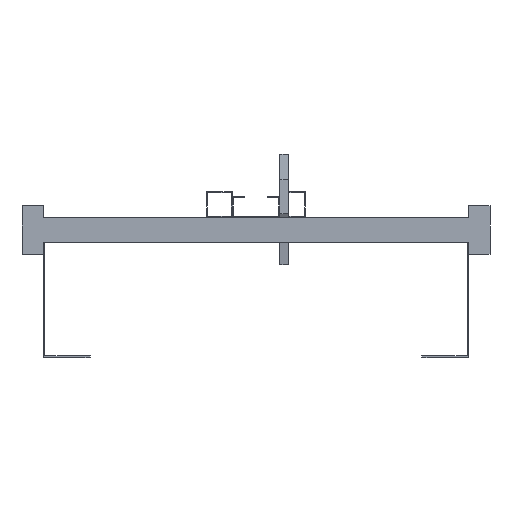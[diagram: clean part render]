
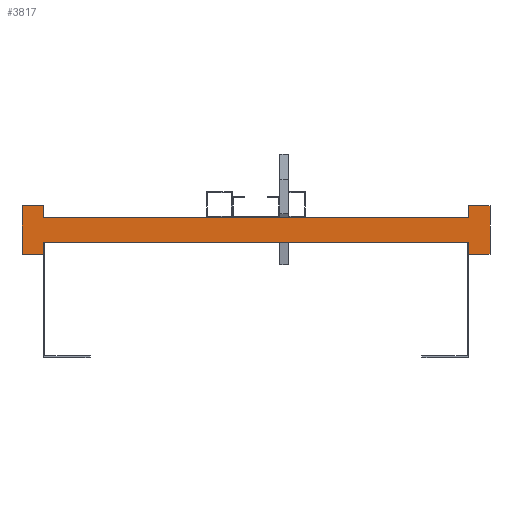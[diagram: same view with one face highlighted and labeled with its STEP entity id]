
A CAD part, front view. The second image highlights one B-rep face of the part: STEP entity #3817.
In plain terms, the highlighted planar face has unit normal (0, -1, 0).
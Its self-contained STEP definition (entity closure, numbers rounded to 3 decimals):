
#1361=DIRECTION('',(0.,0.,1.));
#1362=VECTOR('',#1361,13.5);
#1363=CARTESIAN_POINT('',(250.,0.,-28.5));
#1364=LINE('',#1363,#1362);
#1365=DIRECTION('',(0.,0.,-1.));
#1366=VECTOR('',#1365,13.5);
#1367=CARTESIAN_POINT('',(-250.,0.,-15.));
#1368=LINE('',#1367,#1366);
#1369=DIRECTION('',(-1.,0.,0.));
#1370=VECTOR('',#1369,25.);
#1371=CARTESIAN_POINT('',(-250.,0.,-28.5));
#1372=LINE('',#1371,#1370);
#1373=DIRECTION('',(0.,0.,1.));
#1374=VECTOR('',#1373,57.);
#1375=CARTESIAN_POINT('',(-275.,0.,-28.5));
#1376=LINE('',#1375,#1374);
#1377=DIRECTION('',(1.,0.,0.));
#1378=VECTOR('',#1377,25.);
#1379=CARTESIAN_POINT('',(-275.,0.,28.5));
#1380=LINE('',#1379,#1378);
#1381=DIRECTION('',(0.,0.,-1.));
#1382=VECTOR('',#1381,13.5);
#1383=CARTESIAN_POINT('',(-250.,0.,28.5));
#1384=LINE('',#1383,#1382);
#1385=DIRECTION('',(0.,0.,1.));
#1386=VECTOR('',#1385,13.5);
#1387=CARTESIAN_POINT('',(250.,0.,15.));
#1388=LINE('',#1387,#1386);
#1389=DIRECTION('',(1.,0.,0.));
#1390=VECTOR('',#1389,25.);
#1391=CARTESIAN_POINT('',(250.,0.,28.5));
#1392=LINE('',#1391,#1390);
#1393=DIRECTION('',(0.,0.,-1.));
#1394=VECTOR('',#1393,57.);
#1395=CARTESIAN_POINT('',(275.,0.,28.5));
#1396=LINE('',#1395,#1394);
#1397=DIRECTION('',(-1.,0.,0.));
#1398=VECTOR('',#1397,25.);
#1399=CARTESIAN_POINT('',(275.,0.,-28.5));
#1400=LINE('',#1399,#1398);
#1401=DIRECTION('',(1.,0.,0.));
#1402=VECTOR('',#1401,500.);
#1403=CARTESIAN_POINT('',(-250.,0.,-15.));
#1404=LINE('',#1403,#1402);
#1413=DIRECTION('',(1.,0.,0.));
#1414=VECTOR('',#1413,500.);
#1415=CARTESIAN_POINT('',(-250.,0.,15.));
#1416=LINE('',#1415,#1414);
#1553=CARTESIAN_POINT('',(-275.,0.,28.5));
#1554=CARTESIAN_POINT('',(-250.,0.,28.5));
#1555=VERTEX_POINT('',#1553);
#1556=VERTEX_POINT('',#1554);
#1557=CARTESIAN_POINT('',(-250.,0.,-28.5));
#1558=CARTESIAN_POINT('',(-275.,0.,-28.5));
#1559=VERTEX_POINT('',#1557);
#1560=VERTEX_POINT('',#1558);
#1561=CARTESIAN_POINT('',(275.,0.,28.5));
#1562=CARTESIAN_POINT('',(275.,0.,-28.5));
#1563=VERTEX_POINT('',#1561);
#1564=VERTEX_POINT('',#1562);
#1565=CARTESIAN_POINT('',(250.,0.,-28.5));
#1566=VERTEX_POINT('',#1565);
#1567=CARTESIAN_POINT('',(250.,0.,28.5));
#1568=VERTEX_POINT('',#1567);
#1585=CARTESIAN_POINT('',(-250.,0.,-15.));
#1587=VERTEX_POINT('',#1585);
#1589=CARTESIAN_POINT('',(-250.,0.,15.));
#1591=VERTEX_POINT('',#1589);
#1593=CARTESIAN_POINT('',(250.,0.,-15.));
#1595=VERTEX_POINT('',#1593);
#1597=CARTESIAN_POINT('',(250.,0.,15.));
#1599=VERTEX_POINT('',#1597);
#3793=CARTESIAN_POINT('',(0.,0.,0.));
#3794=DIRECTION('',(0.,1.,0.));
#3795=DIRECTION('',(1.,0.,0.));
#3796=AXIS2_PLACEMENT_3D('',#3793,#3794,#3795);
#3797=PLANE('',#3796);
#3798=ORIENTED_EDGE('',*,*,#2332,.T.);
#3800=ORIENTED_EDGE('',*,*,#3799,.F.);
#3801=ORIENTED_EDGE('',*,*,#2062,.T.);
#3802=ORIENTED_EDGE('',*,*,#3313,.T.);
#3804=ORIENTED_EDGE('',*,*,#3803,.T.);
#3805=ORIENTED_EDGE('',*,*,#3784,.T.);
#3806=ORIENTED_EDGE('',*,*,#2070,.T.);
#3808=ORIENTED_EDGE('',*,*,#3807,.T.);
#3809=ORIENTED_EDGE('',*,*,#2324,.T.);
#3811=ORIENTED_EDGE('',*,*,#3810,.T.);
#3813=ORIENTED_EDGE('',*,*,#3812,.T.);
#3814=ORIENTED_EDGE('',*,*,#3214,.T.);
#3815=EDGE_LOOP('',(#3798,#3800,#3801,#3802,#3804,#3805,#3806,#3808,#3809,#3811,
#3813,#3814));
#3816=FACE_OUTER_BOUND('',#3815,.F.);
#2062=EDGE_CURVE('',#1587,#1559,#1368,.T.);
#2070=EDGE_CURVE('',#1556,#1591,#1384,.T.);
#2324=EDGE_CURVE('',#1599,#1568,#1388,.T.);
#2332=EDGE_CURVE('',#1566,#1595,#1364,.T.);
#3214=EDGE_CURVE('',#1564,#1566,#1400,.T.);
#3313=EDGE_CURVE('',#1559,#1560,#1372,.T.);
#3784=EDGE_CURVE('',#1555,#1556,#1380,.T.);
#3799=EDGE_CURVE('',#1587,#1595,#1404,.T.);
#3803=EDGE_CURVE('',#1560,#1555,#1376,.T.);
#3807=EDGE_CURVE('',#1591,#1599,#1416,.T.);
#3810=EDGE_CURVE('',#1568,#1563,#1392,.T.);
#3812=EDGE_CURVE('',#1563,#1564,#1396,.T.);
#3817=ADVANCED_FACE('',(#3816),#3797,.F.);
